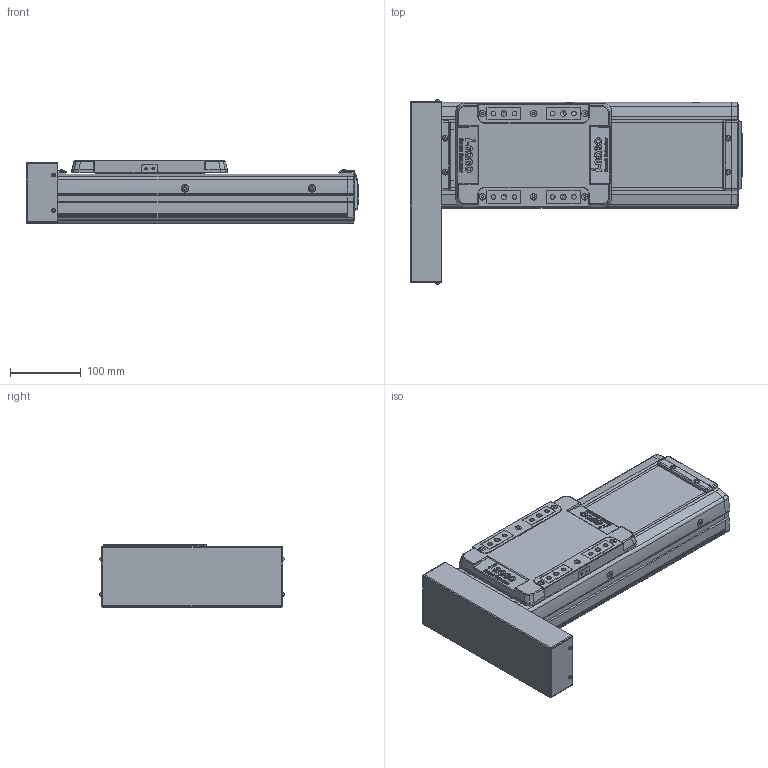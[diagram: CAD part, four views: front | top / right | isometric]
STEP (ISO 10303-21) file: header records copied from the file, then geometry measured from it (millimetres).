
FILE_DESCRIPTION(('STEP AP214'),'1');
FILE_NAME('Z:/Web/3D/SAN150/2013.04 (STP.)/SAN150ㅁㅁ-150PR.stp','2013-05-08T02:42:09',(' '),(' '),'Spatial InterOp 3D',' ',' ');
FILE_SCHEMA(('automotive_design'));
Length unit declared in the file: millimetre
Products named in the file (40): SLBL-SAN150; SLCV-SAN150; FHCS M4.0 x 8.0; BHCS M4.0 x 10.0; SFX-SAN150; RRCV-SAN150; FRBL-SAN150; Spacer; RN15; FRCV-SAN150; Screw 20; BASE-SAN150-000L ; SUS COVER; 스크루 : Round - M5.0 x 6.0; BHCS M3.0 x 6.0; P
Bounding box: 470 x 260.73 x 90 mm (x, y, z)
Volume: 3933769.1 mm3; surface area: 646891 mm2
Topology: 40 solids, 40 shells, 2035 faces, 5210 edges, 3327 vertices
Faces by surface type: plane 1021, cylinder 703, cone 218, sphere 60, bspline 21, torus 12
Entity records: 80176 total; most frequent: CARTESIAN_POINT 12742, DIRECTION 11060, ORIENTED_EDGE 10220, EDGE_CURVE 5110, AXIS2_PLACEMENT_3D 3964, VERTEX_POINT 3327, LINE 3132, VECTOR 3132
